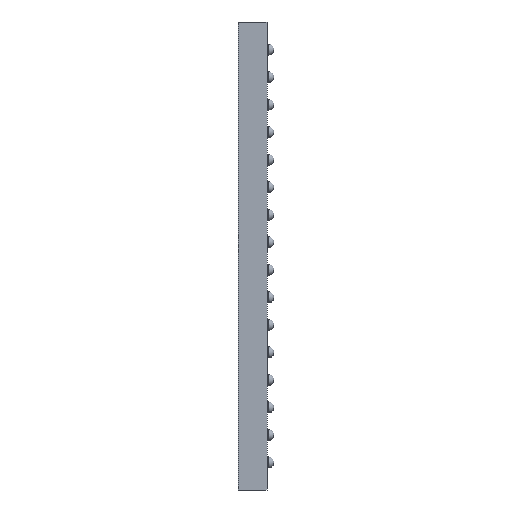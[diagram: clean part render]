
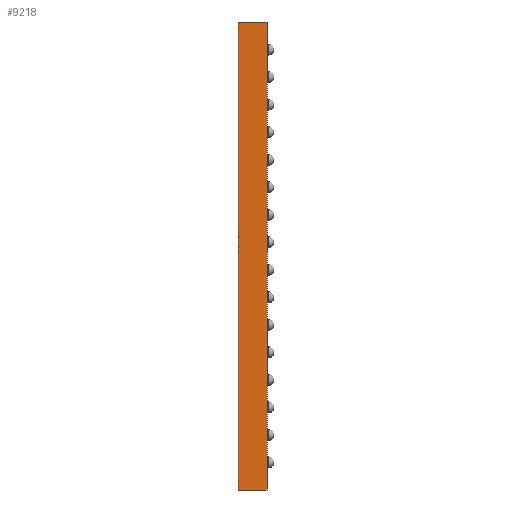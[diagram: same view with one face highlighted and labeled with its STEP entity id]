
A CAD part, left-side view. The second image highlights one B-rep face of the part: STEP entity #9218.
In plain terms, the highlighted planar face has unit normal (-1, 0, 0).
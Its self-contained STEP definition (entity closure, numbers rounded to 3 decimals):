
#7279=CARTESIAN_POINT('',(-8.5,1.05,-8.5));
#7280=VERTEX_POINT('',#7279);
#7287=CARTESIAN_POINT('',(-8.5,1.05,8.5));
#7288=VERTEX_POINT('',#7287);
#7289=CARTESIAN_POINT('',(-8.5,1.05,-8.5));
#7290=DIRECTION('',(0.0,0.0,1.0));
#7291=VECTOR('',#7290,17.);
#7292=LINE('',#7289,#7291);
#7293=EDGE_CURVE('',#7280,#7288,#7292,.T.);
#8370=CARTESIAN_POINT('',(-8.5,0.0,8.5));
#8371=VERTEX_POINT('',#8370);
#8378=CARTESIAN_POINT('',(-8.5,0.0,-8.5));
#8379=VERTEX_POINT('',#8378);
#8380=CARTESIAN_POINT('',(-8.5,0.0,-8.5));
#8381=DIRECTION('',(0.0,0.0,1.0));
#8382=VECTOR('',#8381,17.);
#8383=LINE('',#8380,#8382);
#8384=EDGE_CURVE('',#8379,#8371,#8383,.T.);
#9191=CARTESIAN_POINT('',(-8.5,1.05,-8.5));
#9192=DIRECTION('',(0.0,-1.0,0.0));
#9193=VECTOR('',#9192,1.05);
#9194=LINE('',#9191,#9193);
#9195=EDGE_CURVE('',#7280,#8379,#9194,.T.);
#9202=CARTESIAN_POINT('',(-8.5,1.05,-8.5));
#9203=DIRECTION('',(1.0,0.0,0.0));
#9204=DIRECTION('',(0.0,0.0,-1.0));
#9205=AXIS2_PLACEMENT_3D('',#9202,#9203,#9204);
#9206=PLANE('',#9205);
#9207=ORIENTED_EDGE('',*,*,#8384,.T.);
#9208=CARTESIAN_POINT('',(-8.5,1.05,8.5));
#9209=DIRECTION('',(0.0,-1.0,0.0));
#9210=VECTOR('',#9209,1.05);
#9211=LINE('',#9208,#9210);
#9212=EDGE_CURVE('',#7288,#8371,#9211,.T.);
#9213=ORIENTED_EDGE('',*,*,#9212,.F.);
#9214=ORIENTED_EDGE('',*,*,#7293,.F.);
#9215=ORIENTED_EDGE('',*,*,#9195,.T.);
#9216=EDGE_LOOP('',(#9207,#9213,#9214,#9215));
#9217=FACE_OUTER_BOUND('',#9216,.T.);
#9218=ADVANCED_FACE('',(#9217),#9206,.F.);
